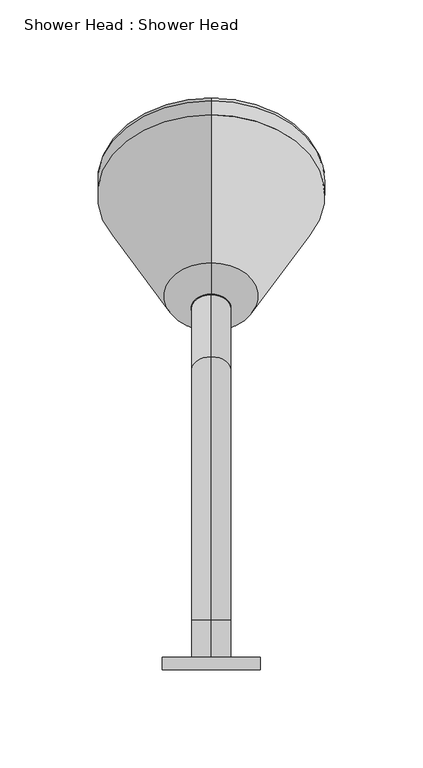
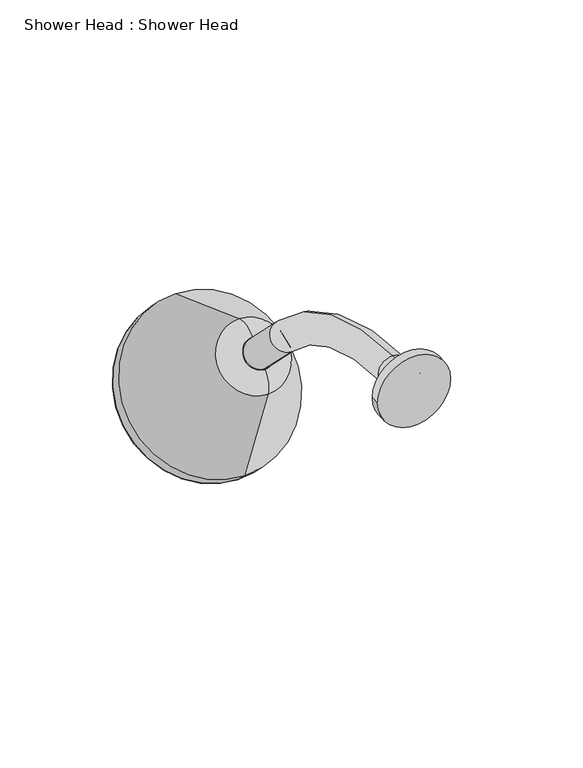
"""IFC4 building model written with IfcOpenShell, lengths in millimetres: flow terminal geometry, Shower Head : Shower Head."""

from ifc_helpers import new_model, si_unit, point, frame, frame_2d, origin, place, context, project, spatial, polyline, circle_curve, ellipse_curve, trimmed, segment, composite_curve, outline, extrude, source, transform, mapped, element, save
from ifc_brep_helpers import plane_surface, cylinder_surface, revolved_surface, advanced_brep


def shower_head_shower_head_b2a460ee(model_context):
    return source(origin(), model_context, "Body", "SolidModel", [
        extrude(outline(composite_curve([segment(trimmed(circle_curve(frame_2d((1600.0, 0.0)), 25.0), [point((1600.0, -25.0))], [point((1600.0, 25.0))], False, "CARTESIAN"), True, "CONTINUOUS"), segment(trimmed(circle_curve(frame_2d((1600.0, 0.0)), 25.0), [point((1600.0, 25.0))], [point((1600.0, -25.0))], False, "CARTESIAN"), True, "CONTINUOUS")], self_intersect=False)), frame((0.0, 0.0, 0.0), z_axis=(0.0, 1.0, 0.0), x_axis=(0.0, 0.0, 1.0)), (0.0, 0.0, 1.0), 6.4821489),
        advanced_brep(
        [(0.0, 207.6624735, 1526.3331882), (0.0, 173.6668118, 1492.3375265), (0.0, 177.1555994, 1508.0744304), (0.0, 191.9255696, 1522.8444006), (0.0, 283.255056, 1498.8197382), (0.0, 201.1802618, 1416.744944), (0.0, 290.3261238, 1491.7486704), (0.0, 208.2513296, 1409.6738762), (0.0, 290.3261238, 1484.6776026), (0.0, 215.3223974, 1409.6738762), (0.0, 288.6229509, 1482.9744296), (0.0, 217.0255704, 1411.3770491), (0.0, 287.2087373, 1484.3886432), (0.0, 215.6113568, 1412.7912627), (0.0, 251.4100471, 1448.5899529), (0.0, 184.5405845, 1515.4594155)],
        [
            (0, 1, circle_curve(frame((0.0, 190.6646427, 1509.3353573), z_axis=(0.0, -0.7071067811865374, 0.7071067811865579), x_axis=(0.0, -0.7071067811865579, -0.7071067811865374)), 24.0385629)),
            (1, 2, circle_curve(frame((0.0, 187.7622012, 1497.4678286), z_axis=(-1.0000000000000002, 0.0, 0.0), x_axis=(0.0, 1.0000000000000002, 0.0)), 15.0)),
            (2, 3, circle_curve(frame((0.0, 184.5405845, 1515.4594155), z_axis=(0.0, 0.7071067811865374, -0.7071067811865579), x_axis=(0.0, -0.7071067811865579, -0.7071067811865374)), 10.4439461)),
            (3, 0, circle_curve(frame((0.0, 202.5321714, 1512.2377988), z_axis=(-1.0000000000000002, 0.0, 0.0), x_axis=(0.0, 0.0, -1.0000000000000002)), 15.0)),
            (1, 0, circle_curve(frame((0.0, 190.6646427, 1509.3353573), z_axis=(0.0, -0.7071067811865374, 0.7071067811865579), x_axis=(0.0, -0.7071067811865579, -0.7071067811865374)), 24.0385629)),
            (3, 2, circle_curve(frame((0.0, 184.5405845, 1515.4594155), z_axis=(0.0, 0.7071067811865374, -0.7071067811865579), x_axis=(0.0, -0.7071067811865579, -0.7071067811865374)), 10.4439461)),
            (4, 5, circle_curve(frame((0.0, 242.2176589, 1457.7823411), z_axis=(0.0, -0.7071067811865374, 0.7071067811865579), x_axis=(0.0, -0.7071067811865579, -0.7071067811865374)), 58.0356436)),
            (5, 1),
            (0, 4),
            (5, 4, circle_curve(frame((0.0, 242.2176589, 1457.7823411), z_axis=(0.0, -0.7071067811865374, 0.7071067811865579), x_axis=(0.0, -0.7071067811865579, -0.7071067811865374)), 58.0356436)),
            (6, 7, circle_curve(frame((0.0, 249.2887267, 1450.7112733), z_axis=(0.0, -0.7071067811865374, 0.7071067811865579), x_axis=(0.0, -0.7071067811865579, -0.7071067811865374)), 58.0356436)),
            (7, 5),
            (4, 6),
            (7, 6, circle_curve(frame((0.0, 249.2887267, 1450.7112733), z_axis=(0.0, -0.7071067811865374, 0.7071067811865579), x_axis=(0.0, -0.7071067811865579, -0.7071067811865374)), 58.0356436)),
            (8, 9, circle_curve(frame((0.0, 252.8242606, 1447.1757394), z_axis=(0.0, -0.7071067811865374, 0.7071067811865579), x_axis=(0.0, -0.7071067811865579, -0.7071067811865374)), 53.0356436)),
            (9, 7, circle_curve(frame((0.0, 211.7868635, 1413.2094101), z_axis=(-1.0000000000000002, 0.0, 0.0), x_axis=(0.0, 1.0000000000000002, 0.0)), 5.0)),
            (6, 8, circle_curve(frame((0.0, 286.7905899, 1488.2131365), z_axis=(-1.0000000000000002, 0.0, 0.0), x_axis=(0.0, 0.0, -1.0000000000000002)), 5.0)),
            (9, 8, circle_curve(frame((0.0, 252.8242606, 1447.1757394), z_axis=(0.0, -0.7071067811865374, 0.7071067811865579), x_axis=(0.0, -0.7071067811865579, -0.7071067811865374)), 53.0356436)),
            (10, 11, circle_curve(frame((0.0, 252.8242606, 1447.1757394), z_axis=(0.0, -0.7071067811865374, 0.7071067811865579), x_axis=(0.0, -0.7071067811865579, -0.7071067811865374)), 50.6269933)),
            (11, 9),
            (8, 10),
            (11, 10, circle_curve(frame((0.0, 252.8242606, 1447.1757394), z_axis=(0.0, -0.7071067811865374, 0.7071067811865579), x_axis=(0.0, -0.7071067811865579, -0.7071067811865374)), 50.6269933)),
            (12, 13, circle_curve(frame((0.0, 251.4100471, 1448.5899529), z_axis=(0.0, -0.7071067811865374, 0.7071067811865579), x_axis=(0.0, -0.7071067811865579, -0.7071067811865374)), 50.6269933)),
            (13, 11),
            (10, 12),
            (13, 12, circle_curve(frame((0.0, 251.4100471, 1448.5899529), z_axis=(0.0, -0.7071067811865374, 0.7071067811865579), x_axis=(0.0, -0.7071067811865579, -0.7071067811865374)), 50.6269933)),
            (14, 13),
            (12, 14),
            (2, 15),
            (15, 3),
        ],
        [
            revolved_surface(trimmed(ellipse_curve(frame((0.0, 187.7622012, 1497.4678286), z_axis=(1.0000000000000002, 0.0, 0.0), x_axis=(0.0, 1.0000000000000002, 0.0)), 15.0, 15.0), [point((0.0, 177.1555994, 1508.0744304))], [point((0.0, 173.6668118, 1492.3375265))], True, "CARTESIAN"), (0.0, 184.5405845, 1515.4594155), (0.0, 0.7071067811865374, -0.7071067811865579)),
            revolved_surface(polyline([(0.0, 173.6668118, 1492.3375265), (0.0, 201.1802618, 1416.744944)]), (0.0, 184.5405845, 1515.4594155), (0.0, 0.7071067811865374, -0.7071067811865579)),
            cylinder_surface(frame((0.0, 184.5405845, 1515.4594155), z_axis=(0.0, 0.7071067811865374, -0.7071067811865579), x_axis=(0.0, -0.7071067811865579, -0.7071067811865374)), 58.0356436),
            revolved_surface(trimmed(ellipse_curve(frame((0.0, 211.7868635, 1413.2094101), z_axis=(1.0000000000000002, 0.0, 0.0), x_axis=(0.0, 1.0000000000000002, 0.0)), 5.0, 5.0), [point((0.0, 208.2513296, 1409.6738762))], [point((0.0, 215.3223974, 1409.6738762))], True, "CARTESIAN"), (0.0, 184.5405845, 1515.4594155), (0.0, 0.7071067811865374, -0.7071067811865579)),
            plane_surface(frame((0.0, 252.8242606, 1447.1757394), z_axis=(0.0, 0.7071067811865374, -0.7071067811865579), x_axis=(0.0, -0.7071067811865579, -0.7071067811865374))),
            revolved_surface(polyline([(0.0, 217.02557037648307, 1411.3770490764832), (0.0, 215.61135677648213, 1412.7912626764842)]), (0.0, 184.5405845, 1515.4594155), (0.0, 0.7071067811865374, -0.7071067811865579)),
            plane_surface(frame((0.0, 251.4100471, 1448.5899529), z_axis=(0.0, 0.7071067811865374, -0.7071067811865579), x_axis=(0.0, -0.7071067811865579, -0.7071067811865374))),
            plane_surface(frame((0.0, 184.5405845, 1515.4594155), z_axis=(0.0, -0.7071067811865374, 0.7071067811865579), x_axis=(0.0, -0.7071067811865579, -0.7071067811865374))),
        ],
        [
            (0, [[1, 2, 3, 4]]),
            (0, [[5, -4, 6, -2]]),
            (1, [[7, 8, -1, 9]]),
            (1, [[10, -9, -5, -8]]),
            (2, [[11, 12, -7, 13]]),
            (2, [[14, -13, -10, -12]]),
            (3, [[15, 16, -11, 17]]),
            (3, [[18, -17, -14, -16]]),
            (4, [[19, 20, -15, 21]]),
            (4, [[22, -21, -18, -20]]),
            (5, [[23, 24, -19, 25]]),
            (5, [[26, -25, -22, -24]]),
            (6, [[27, -23, 28]]),
            (6, [[-28, -26, -27]]),
            (7, [[-3, 29, 30]]),
            (7, [[-6, -30, -29]]),
        ],
    ),
        advanced_brep(
        [(0.0, 6.4821489, 1590.0), (0.0, 6.4821489, 1610.0), (0.0, 25.4415588, 1590.0), (0.0, 25.4415588, 1610.0), (0.0, 159.7918472, 1554.3502884), (0.0, 145.6497116, 1540.2081528), (0.0, 177.4695167, 1508.3883476), (0.0, 191.6116524, 1522.5304833)],
        [
            (0, 1, circle_curve(frame((0.0, 6.4821489, 1600.0), z_axis=(0.0, -1.0, 0.0), x_axis=(0.0, 0.0, 1.0)), 10.0)),
            (1, 0, circle_curve(frame((0.0, 6.4821489, 1600.0), z_axis=(0.0, -1.0, 0.0), x_axis=(0.0, 0.0, 1.0)), 10.0)),
            (0, 2),
            (2, 3, circle_curve(frame((0.0, 25.4415588, 1600.0), z_axis=(0.0, -1.0, 0.0), x_axis=(0.0, 0.0, 1.0)), 10.0)),
            (3, 1),
            (3, 2, circle_curve(frame((0.0, 25.4415588, 1600.0), z_axis=(0.0, -1.0, 0.0), x_axis=(0.0, 0.0, 1.0)), 10.0)),
            (4, 3, circle_curve(frame((0.0, 25.4415588, 1420.0), z_axis=(1.0, 0.0, 0.0), x_axis=(0.0, 0.0, 1.0)), 190.0)),
            (2, 5, circle_curve(frame((0.0, 25.4415588, 1420.0), z_axis=(-1.0, 0.0, 0.0), x_axis=(0.0, 0.0, 1.0)), 170.0)),
            (5, 4, circle_curve(frame((0.0, 152.7207794, 1547.2792206), z_axis=(0.0, -0.7071067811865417, 0.7071067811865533), x_axis=(0.0, 0.7071067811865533, 0.7071067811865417)), 10.0)),
            (4, 5, circle_curve(frame((0.0, 152.7207794, 1547.2792206), z_axis=(0.0, -0.7071067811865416, 0.7071067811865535), x_axis=(0.0, 0.7071067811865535, 0.7071067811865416)), 10.0)),
            (6, 7, circle_curve(frame((0.0, 184.5405845, 1515.4594155), z_axis=(0.0, 0.7071067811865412, -0.7071067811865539), x_axis=(0.0, 0.7071067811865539, 0.7071067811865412)), 10.0)),
            (7, 6, circle_curve(frame((0.0, 184.5405845, 1515.4594155), z_axis=(0.0, 0.7071067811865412, -0.7071067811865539), x_axis=(0.0, 0.7071067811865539, 0.7071067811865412)), 10.0)),
            (5, 6),
            (7, 4),
        ],
        [
            plane_surface(frame((0.0, 6.4821489, 1600.0), z_axis=(0.0, -1.0, 0.0), x_axis=(1.0, 0.0, 0.0))),
            cylinder_surface(frame((0.0, 6.4821489, 1600.0), z_axis=(0.0, -1.0, 0.0), x_axis=(0.0, 0.0, 1.0)), 10.0),
            revolved_surface(trimmed(ellipse_curve(frame((0.0, 25.4415588, 1600.0), z_axis=(0.0, -1.0, 0.0), x_axis=(0.0, 0.0, 1.0)), 10.0, 10.0), [point((0.0, 25.4415588, 1590.0))], [point((0.0, 25.4415588, 1610.0))], True, "CARTESIAN"), (0.0, 25.4415588, 1420.0), (-1.0, 0.0, 0.0)),
            revolved_surface(trimmed(ellipse_curve(frame((0.0, 25.4415588, 1600.0), z_axis=(0.0, -1.0, 0.0), x_axis=(0.0, 0.0, 1.0)), 10.0, 10.0), [point((0.0, 25.4415588, 1610.0))], [point((0.0, 25.4415588, 1590.0))], True, "CARTESIAN"), (0.0, 25.4415588, 1420.0), (-1.0, 0.0, 0.0)),
            plane_surface(frame((0.0, 184.5405845, 1515.4594155), z_axis=(0.0, 0.7071067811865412, -0.7071067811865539), x_axis=(1.0, 0.0, 0.0))),
            cylinder_surface(frame((0.0, 152.7207794, 1547.2792206), z_axis=(0.0, -0.7071067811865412, 0.7071067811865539), x_axis=(0.0, 0.7071067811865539, 0.7071067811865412)), 10.0),
        ],
        [
            (0, [[1, 2]]),
            (1, [[-1, 3, 4, 5]]),
            (1, [[-2, -5, 6, -3]]),
            (2, [[7, -4, 8, 9]]),
            (3, [[-8, -6, -7, 10]]),
            (4, [[11, 12]]),
            (5, [[-9, 13, -12, 14]]),
            (5, [[-10, -14, -11, -13]]),
        ],
    ),
    ])


if __name__ == "__main__":
    model = new_model("IFC4")
    model_context = context("Model", 3, world=origin())
    ifc_project = project(units=[si_unit("LENGTHUNIT", "METRE", prefix="MILLI")], contexts=[model_context])
    site = spatial("IfcSite", under=ifc_project)
    building = spatial("IfcBuilding", under=site)
    placement = place(None, origin())
    shower_head_shower_head_shape = shower_head_shower_head_b2a460ee(model_context)
    element("IfcFlowTerminal", 1, ObjectType="Shower Head : Shower Head", at=placement, inside=building, context=model_context, shape_type="MappedRepresentation", body=[
        mapped(shower_head_shower_head_shape, transform((0.0, 0.0, 0.0), x_axis=(1.0, 0.0, 0.0), y_axis=(0.0, 1.0, 0.0), z_axis=(0.0, 0.0, 1.0))),
    ])
    save(model, "model.ifc")
